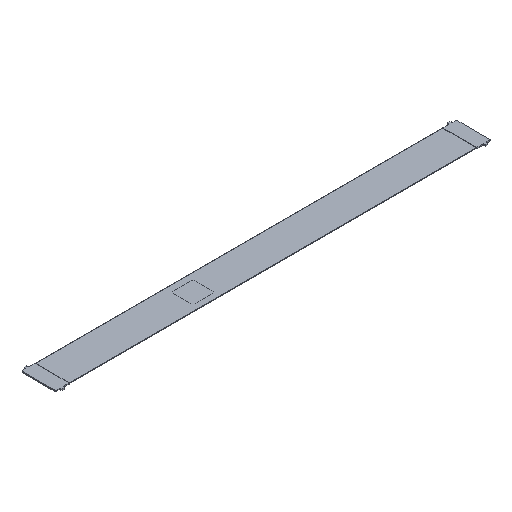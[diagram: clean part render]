
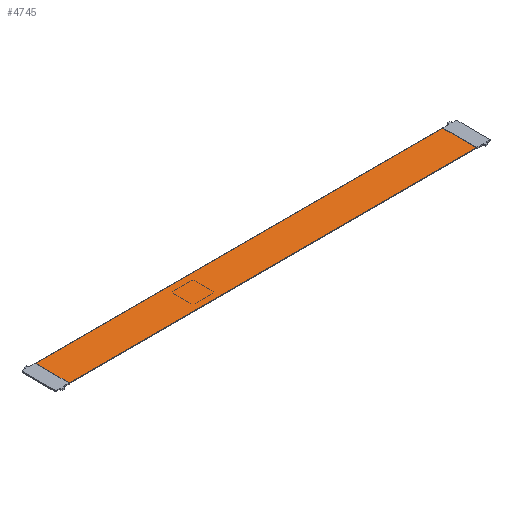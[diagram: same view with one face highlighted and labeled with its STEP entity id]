
A CAD part, isometric view. The second image highlights one B-rep face of the part: STEP entity #4745.
In plain terms, the highlighted planar face has unit normal (0, 0, 1).
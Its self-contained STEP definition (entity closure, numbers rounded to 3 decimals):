
#4584 = VERTEX_POINT('',#4585);
#4585 = CARTESIAN_POINT('',(5.,6.25,0.22));
#4591 = EDGE_CURVE('',#4584,#4592,#4594,.T.);
#4592 = VERTEX_POINT('',#4593);
#4593 = CARTESIAN_POINT('',(5.,-6.25,0.22));
#4594 = LINE('',#4595,#4596);
#4595 = CARTESIAN_POINT('',(5.,6.25,0.22));
#4596 = VECTOR('',#4597,1.);
#4597 = DIRECTION('',(0.,-1.,0.));
#4631 = VERTEX_POINT('',#4632);
#4632 = CARTESIAN_POINT('',(154.97,6.25,0.22));
#4638 = EDGE_CURVE('',#4631,#4584,#4639,.T.);
#4639 = LINE('',#4640,#4641);
#4640 = CARTESIAN_POINT('',(155.,6.25,0.22));
#4641 = VECTOR('',#4642,1.);
#4642 = DIRECTION('',(-1.,0.,0.));
#4662 = VERTEX_POINT('',#4663);
#4663 = CARTESIAN_POINT('',(155.,6.22,0.22));
#4669 = EDGE_CURVE('',#4662,#4631,#4670,.T.);
#4670 = LINE('',#4671,#4672);
#4671 = CARTESIAN_POINT('',(155.,6.22,0.22));
#4672 = VECTOR('',#4673,1.);
#4673 = DIRECTION('',(-0.707,0.707,0.));
#4686 = VERTEX_POINT('',#4687);
#4687 = CARTESIAN_POINT('',(155.,-6.25,0.22));
#4693 = EDGE_CURVE('',#4686,#4662,#4694,.T.);
#4694 = LINE('',#4695,#4696);
#4695 = CARTESIAN_POINT('',(155.,-6.25,0.22));
#4696 = VECTOR('',#4697,1.);
#4697 = DIRECTION('',(0.,1.,0.));
#4715 = EDGE_CURVE('',#4592,#4686,#4716,.T.);
#4716 = LINE('',#4717,#4718);
#4717 = CARTESIAN_POINT('',(5.,-6.25,0.22));
#4718 = VECTOR('',#4719,1.);
#4719 = DIRECTION('',(1.,0.,0.));
#4745 = ADVANCED_FACE('',(#4746),#4753,.F.);
#4746 = FACE_BOUND('',#4747,.F.);
#4747 = EDGE_LOOP('',(#4748,#4749,#4750,#4751,#4752));
#4748 = ORIENTED_EDGE('',*,*,#4591,.F.);
#4749 = ORIENTED_EDGE('',*,*,#4638,.F.);
#4750 = ORIENTED_EDGE('',*,*,#4669,.F.);
#4751 = ORIENTED_EDGE('',*,*,#4693,.F.);
#4752 = ORIENTED_EDGE('',*,*,#4715,.F.);
#4753 = PLANE('',#4754);
#4754 = AXIS2_PLACEMENT_3D('',#4755,#4756,#4757);
#4755 = CARTESIAN_POINT('',(5.,-6.25,0.22));
#4756 = DIRECTION('',(0.,0.,-1.));
#4757 = DIRECTION('',(-1.,0.,0.));
